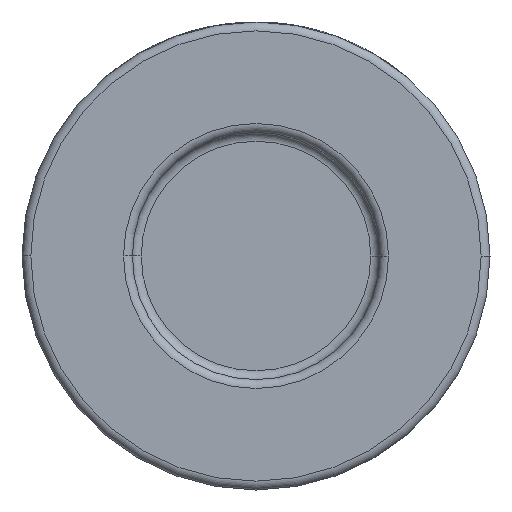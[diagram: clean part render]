
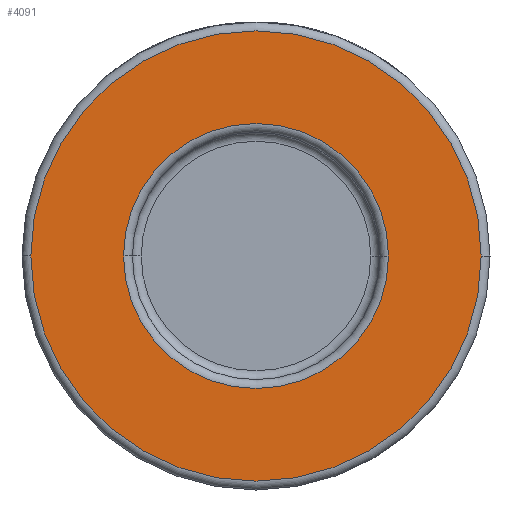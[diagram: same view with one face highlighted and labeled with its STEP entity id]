
A CAD part, front view. The second image highlights one B-rep face of the part: STEP entity #4091.
In plain terms, the highlighted planar face has unit normal (0, -1, 0).
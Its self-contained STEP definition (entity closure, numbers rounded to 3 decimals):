
#102 = VERTEX_POINT ( 'NONE', #2823 ) ;
#178 = CIRCLE ( 'NONE', #1572, 15. ) ;
#262 = DIRECTION ( 'NONE',  ( 1., 0., 0. ) ) ;
#360 = DIRECTION ( 'NONE',  ( 1., 0., 0. ) ) ;
#408 = DIRECTION ( 'NONE',  ( 0., 1., 0. ) ) ;
#500 = EDGE_LOOP ( 'NONE', ( #1476, #4483 ) ) ;
#526 = EDGE_CURVE ( 'NONE', #3867, #2031, #178, .T. ) ;
#999 = FACE_OUTER_BOUND ( 'NONE', #2955, .T. ) ;
#1079 = EDGE_CURVE ( 'NONE', #102, #3772, #1369, .T. ) ;
#1089 = CARTESIAN_POINT ( 'NONE',  ( 25.5, -20., 0. ) ) ;
#1154 = DIRECTION ( 'NONE',  ( 1., 0., 0. ) ) ;
#1155 = CARTESIAN_POINT ( 'NONE',  ( 0., -20., 0. ) ) ;
#1369 = CIRCLE ( 'NONE', #4372, 25.5 ) ;
#1432 = CARTESIAN_POINT ( 'NONE',  ( 0., -20., 0. ) ) ;
#1476 = ORIENTED_EDGE ( 'NONE', *, *, #3483, .T. ) ;
#1527 = DIRECTION ( 'NONE',  ( 0., 1., 0. ) ) ;
#1572 = AXIS2_PLACEMENT_3D ( 'NONE', #2271, #1527, #1154 ) ;
#1616 = CARTESIAN_POINT ( 'NONE',  ( 26.5, -20., 0. ) ) ;
#1641 = FACE_BOUND ( 'NONE', #500, .T. ) ;
#1665 = DIRECTION ( 'NONE',  ( 0., -1., 0. ) ) ;
#1993 = AXIS2_PLACEMENT_3D ( 'NONE', #4539, #408, #360 ) ;
#2031 = VERTEX_POINT ( 'NONE', #3164 ) ;
#2097 = DIRECTION ( 'NONE',  ( 0., -1., 0. ) ) ;
#2188 = DIRECTION ( 'NONE',  ( 1., 0., 0. ) ) ;
#2271 = CARTESIAN_POINT ( 'NONE',  ( 0., -20., 0. ) ) ;
#2594 = AXIS2_PLACEMENT_3D ( 'NONE', #1432, #2097, #2188 ) ;
#2814 = CIRCLE ( 'NONE', #1993, 15. ) ;
#2823 = CARTESIAN_POINT ( 'NONE',  ( -25.5, -20., 0. ) ) ;
#2955 = EDGE_LOOP ( 'NONE', ( #3942, #3209 ) ) ;
#2958 = AXIS2_PLACEMENT_3D ( 'NONE', #1616, #1665, #262 ) ;
#3072 = PLANE ( 'NONE',  #2958 ) ;
#3164 = CARTESIAN_POINT ( 'NONE',  ( 15., -20., 0. ) ) ;
#3209 = ORIENTED_EDGE ( 'NONE', *, *, #1079, .T. ) ;
#3257 = EDGE_CURVE ( 'NONE', #3772, #102, #3981, .T. ) ;
#3483 = EDGE_CURVE ( 'NONE', #2031, #3867, #2814, .T. ) ;
#3563 = CARTESIAN_POINT ( 'NONE',  ( -15., -20., 0. ) ) ;
#3698 = DIRECTION ( 'NONE',  ( 0., -1., 0. ) ) ;
#3719 = DIRECTION ( 'NONE',  ( 1., 0., 0. ) ) ;
#3772 = VERTEX_POINT ( 'NONE', #1089 ) ;
#3867 = VERTEX_POINT ( 'NONE', #3563 ) ;
#3942 = ORIENTED_EDGE ( 'NONE', *, *, #3257, .T. ) ;
#3981 = CIRCLE ( 'NONE', #2594, 25.5 ) ;
#4091 = ADVANCED_FACE ( 'NONE', ( #1641, #999 ), #3072, .T. ) ;
#4372 = AXIS2_PLACEMENT_3D ( 'NONE', #1155, #3698, #3719 ) ;
#4483 = ORIENTED_EDGE ( 'NONE', *, *, #526, .T. ) ;
#4539 = CARTESIAN_POINT ( 'NONE',  ( 0., -20., 0. ) ) ;
